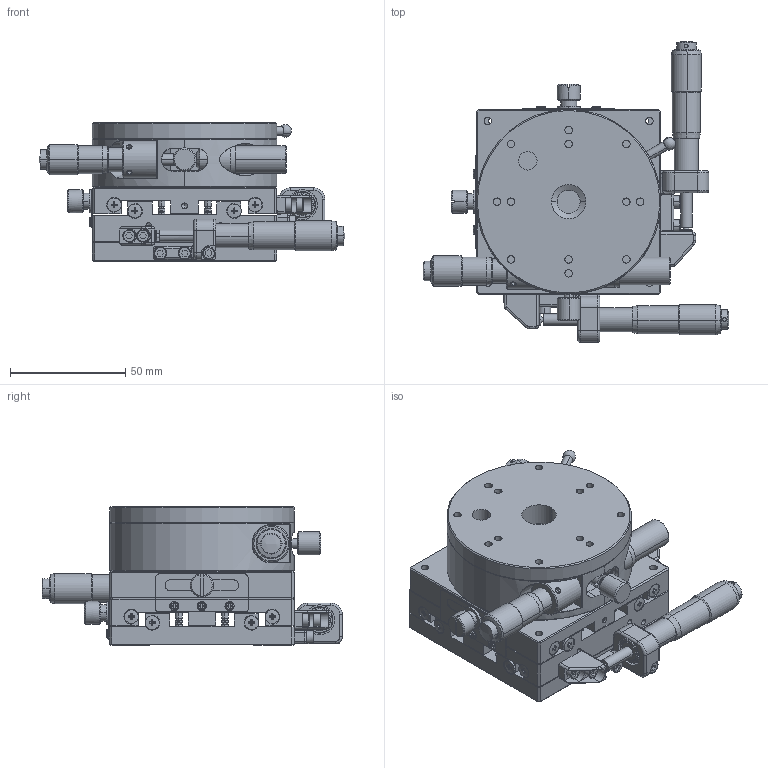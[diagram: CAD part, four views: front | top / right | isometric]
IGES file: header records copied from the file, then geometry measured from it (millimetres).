
Global section: file name: No Iges File Name specified; native system: AutoDesk Inventor R12.0; preprocessor: AutoDesk Inventor Iges Exporter R12.0; author: No Author specified; organization: No Organization specified; date: 20090918.180950; units: millimetre
Bounding box: 132.35 x 130.17 x 60 mm (x, y, z)
Volume: 325500.2 mm3; surface area: 124278.3 mm2
Topology: 6 solids, 87 shells, 2592 faces, 6297 edges, 4027 vertices
Faces by surface type: plane 929, bspline 659, cylinder 496, revolution 230, cone 210, torus 38, sphere 30
Full cylindrical faces by diameter (mm): 80 x1
